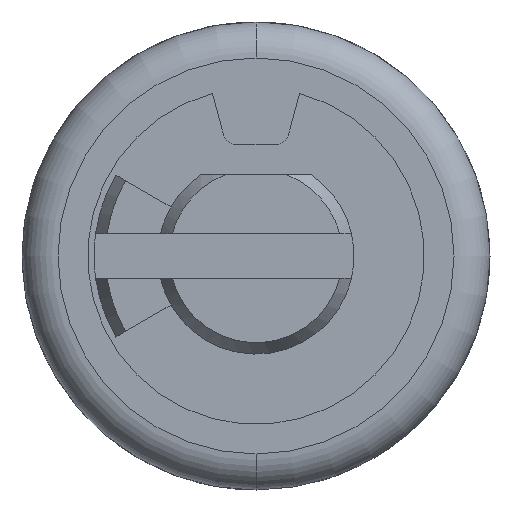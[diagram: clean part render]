
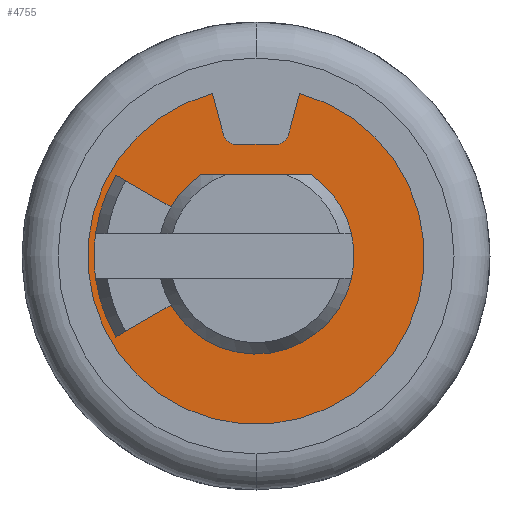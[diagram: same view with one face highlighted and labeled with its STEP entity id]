
A CAD part, front view. The second image highlights one B-rep face of the part: STEP entity #4755.
In plain terms, the highlighted planar face has unit normal (0, -1, 0).
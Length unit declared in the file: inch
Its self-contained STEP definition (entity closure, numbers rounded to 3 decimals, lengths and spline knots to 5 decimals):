
#1652=CARTESIAN_POINT('',(0.,-0.067,0.));
#1653=DIRECTION('',(0.,-1.,0.));
#1654=DIRECTION('',(-0.99,0.,0.139));
#1655=AXIS2_PLACEMENT_3D('',#1652,#1653,#1654);
#1660=CARTESIAN_POINT('',(0.,-0.067,0.));
#1661=DIRECTION('',(0.,-1.,0.));
#1662=DIRECTION('',(-0.99,0.,-0.139));
#1663=AXIS2_PLACEMENT_3D('',#1660,#1661,#1662);
#1668=DIRECTION('',(0.866,0.,0.5));
#1669=VECTOR('',#1668,0.0355);
#1670=CARTESIAN_POINT('',(-0.07794,-0.067,-0.045));
#1671=LINE('',#1670,#1669);
#1675=CARTESIAN_POINT('',(0.,-0.067,0.));
#1676=DIRECTION('',(0.,-1.,0.));
#1677=DIRECTION('',(-0.866,0.,-0.5));
#1678=AXIS2_PLACEMENT_3D('',#1675,#1676,#1677);
#1683=CARTESIAN_POINT('',(0.,-0.067,0.));
#1684=DIRECTION('',(0.,-1.,0.));
#1685=DIRECTION('',(0.973,0.,-0.229));
#1686=AXIS2_PLACEMENT_3D('',#1683,#1684,#1685);
#1691=CARTESIAN_POINT('',(0.,-0.067,0.));
#1692=DIRECTION('',(0.,-1.,0.));
#1693=DIRECTION('',(0.973,0.,0.229));
#1694=AXIS2_PLACEMENT_3D('',#1691,#1692,#1693);
#1699=DIRECTION('',(-1.,0.,0.));
#1700=VECTOR('',#1699,0.06149);
#1701=CARTESIAN_POINT('',(0.03074,-0.067,0.045));
#1702=LINE('',#1701,#1700);
#1706=CARTESIAN_POINT('',(0.,-0.067,0.));
#1707=DIRECTION('',(0.,-1.,0.));
#1708=DIRECTION('',(-0.564,0.,0.826));
#1709=AXIS2_PLACEMENT_3D('',#1706,#1707,#1708);
#1714=DIRECTION('',(-0.866,0.,0.5));
#1715=VECTOR('',#1714,0.0355);
#1716=CARTESIAN_POINT('',(-0.0472,-0.067,0.02725));
#1717=LINE('',#1716,#1715);
#1721=CARTESIAN_POINT('',(0.,-0.067,0.));
#1722=DIRECTION('',(0.,-1.,0.));
#1723=DIRECTION('',(-0.866,0.,0.5));
#1724=AXIS2_PLACEMENT_3D('',#1721,#1722,#1723);
#1729=DIRECTION('',(1.,0.,0.));
#1730=VECTOR('',#1729,0.02248);
#1731=CARTESIAN_POINT('',(-0.01124,-0.067,0.062));
#1732=LINE('',#1731,#1730);
#1736=CARTESIAN_POINT('',(0.01124,-0.067,0.069));
#1737=DIRECTION('',(0.,1.,0.));
#1738=DIRECTION('',(0.966,0.,-0.259));
#1739=AXIS2_PLACEMENT_3D('',#1736,#1737,#1738);
#1744=DIRECTION('',(0.259,0.,0.966));
#1745=VECTOR('',#1744,0.02394);
#1746=CARTESIAN_POINT('',(0.018,-0.067,0.06719));
#1747=LINE('',#1746,#1745);
#1751=CARTESIAN_POINT('',(0.,-0.067,0.));
#1752=DIRECTION('',(0.,1.,0.));
#1753=DIRECTION('',(0.259,0.,0.966));
#1754=AXIS2_PLACEMENT_3D('',#1751,#1752,#1753);
#1759=DIRECTION('',(0.259,0.,-0.966));
#1760=VECTOR('',#1759,0.02394);
#1761=CARTESIAN_POINT('',(-0.0242,-0.067,0.09031));
#1762=LINE('',#1761,#1760);
#1766=CARTESIAN_POINT('',(-0.01124,-0.067,0.069));
#1767=DIRECTION('',(0.,1.,0.));
#1768=DIRECTION('',(0.,0.,-1.));
#1769=AXIS2_PLACEMENT_3D('',#1766,#1767,#1768);
#3241=CARTESIAN_POINT('',(0.03074,-0.067,0.045));
#3242=CARTESIAN_POINT('',(-0.03074,-0.067,0.045));
#3243=VERTEX_POINT('',#3241);
#3244=VERTEX_POINT('',#3242);
#3245=CARTESIAN_POINT('',(-0.0472,-0.067,0.02725));
#3246=CARTESIAN_POINT('',(-0.07794,-0.067,0.045));
#3247=VERTEX_POINT('',#3245);
#3248=VERTEX_POINT('',#3246);
#3249=CARTESIAN_POINT('',(-0.07794,-0.067,-0.045));
#3250=CARTESIAN_POINT('',(-0.0472,-0.067,-0.02725));
#3251=VERTEX_POINT('',#3249);
#3252=VERTEX_POINT('',#3250);
#3265=CARTESIAN_POINT('',(-0.08913,-0.067,0.0125));
#3266=CARTESIAN_POINT('',(-0.08913,-0.067,-0.0125));
#3267=VERTEX_POINT('',#3265);
#3268=VERTEX_POINT('',#3266);
#3269=CARTESIAN_POINT('',(0.05305,-0.067,-0.0125));
#3270=CARTESIAN_POINT('',(0.05305,-0.067,0.0125));
#3271=VERTEX_POINT('',#3269);
#3272=VERTEX_POINT('',#3270);
#3547=CARTESIAN_POINT('',(-0.01124,-0.067,0.062));
#3548=CARTESIAN_POINT('',(0.01124,-0.067,0.062));
#3549=VERTEX_POINT('',#3547);
#3550=VERTEX_POINT('',#3548);
#3551=CARTESIAN_POINT('',(0.018,-0.067,0.06719));
#3552=CARTESIAN_POINT('',(0.0242,-0.067,0.09031));
#3553=VERTEX_POINT('',#3551);
#3554=VERTEX_POINT('',#3552);
#3555=CARTESIAN_POINT('',(-0.0242,-0.067,0.09031));
#3556=VERTEX_POINT('',#3555);
#3557=CARTESIAN_POINT('',(-0.018,-0.067,0.06719));
#3558=VERTEX_POINT('',#3557);
#4715=CARTESIAN_POINT('',(0.,-0.067,0.));
#4716=DIRECTION('',(0.,1.,0.));
#4717=DIRECTION('',(1.,0.,0.));
#4718=AXIS2_PLACEMENT_3D('',#4715,#4716,#4717);
#4719=PLANE('',#4718);
#4721=ORIENTED_EDGE('',*,*,#4720,.T.);
#4722=ORIENTED_EDGE('',*,*,#4705,.F.);
#4724=ORIENTED_EDGE('',*,*,#4723,.T.);
#4726=ORIENTED_EDGE('',*,*,#4725,.T.);
#4728=ORIENTED_EDGE('',*,*,#4727,.T.);
#4730=ORIENTED_EDGE('',*,*,#4729,.F.);
#4731=EDGE_LOOP('',(#4721,#4722,#4724,#4726,#4728,#4730));
#4732=FACE_OUTER_BOUND('',#4731,.F.);
#4734=ORIENTED_EDGE('',*,*,#4733,.T.);
#4736=ORIENTED_EDGE('',*,*,#4735,.T.);
#4738=ORIENTED_EDGE('',*,*,#4737,.T.);
#4740=ORIENTED_EDGE('',*,*,#4739,.T.);
#4742=ORIENTED_EDGE('',*,*,#4741,.T.);
#4744=ORIENTED_EDGE('',*,*,#4743,.T.);
#4746=ORIENTED_EDGE('',*,*,#4745,.T.);
#4748=ORIENTED_EDGE('',*,*,#4747,.T.);
#4750=ORIENTED_EDGE('',*,*,#4749,.T.);
#4752=ORIENTED_EDGE('',*,*,#4751,.T.);
#4753=EDGE_LOOP('',(#4734,#4736,#4738,#4740,#4742,#4744,#4746,#4748,#4750,
#4752));
#4754=FACE_BOUND('',#4753,.F.);
#1656=CIRCLE('',#1655,0.09);
#1664=CIRCLE('',#1663,0.09);
#1679=CIRCLE('',#1678,0.0545);
#1687=CIRCLE('',#1686,0.0545);
#1695=CIRCLE('',#1694,0.0545);
#1710=CIRCLE('',#1709,0.0545);
#1725=CIRCLE('',#1724,0.09);
#1740=CIRCLE('',#1739,0.007);
#1755=CIRCLE('',#1754,0.0935);
#1770=CIRCLE('',#1769,0.007);
#4705=EDGE_CURVE('',#3553,#3550,#1740,.T.);
#4720=EDGE_CURVE('',#3549,#3550,#1732,.T.);
#4723=EDGE_CURVE('',#3553,#3554,#1747,.T.);
#4725=EDGE_CURVE('',#3554,#3556,#1755,.T.);
#4727=EDGE_CURVE('',#3556,#3558,#1762,.T.);
#4729=EDGE_CURVE('',#3549,#3558,#1770,.T.);
#4733=EDGE_CURVE('',#3267,#3268,#1656,.T.);
#4735=EDGE_CURVE('',#3268,#3251,#1664,.T.);
#4737=EDGE_CURVE('',#3251,#3252,#1671,.T.);
#4739=EDGE_CURVE('',#3252,#3271,#1679,.T.);
#4741=EDGE_CURVE('',#3271,#3272,#1687,.T.);
#4743=EDGE_CURVE('',#3272,#3243,#1695,.T.);
#4745=EDGE_CURVE('',#3243,#3244,#1702,.T.);
#4747=EDGE_CURVE('',#3244,#3247,#1710,.T.);
#4749=EDGE_CURVE('',#3247,#3248,#1717,.T.);
#4751=EDGE_CURVE('',#3248,#3267,#1725,.T.);
#4755=ADVANCED_FACE('',(#4732,#4754),#4719,.F.);
